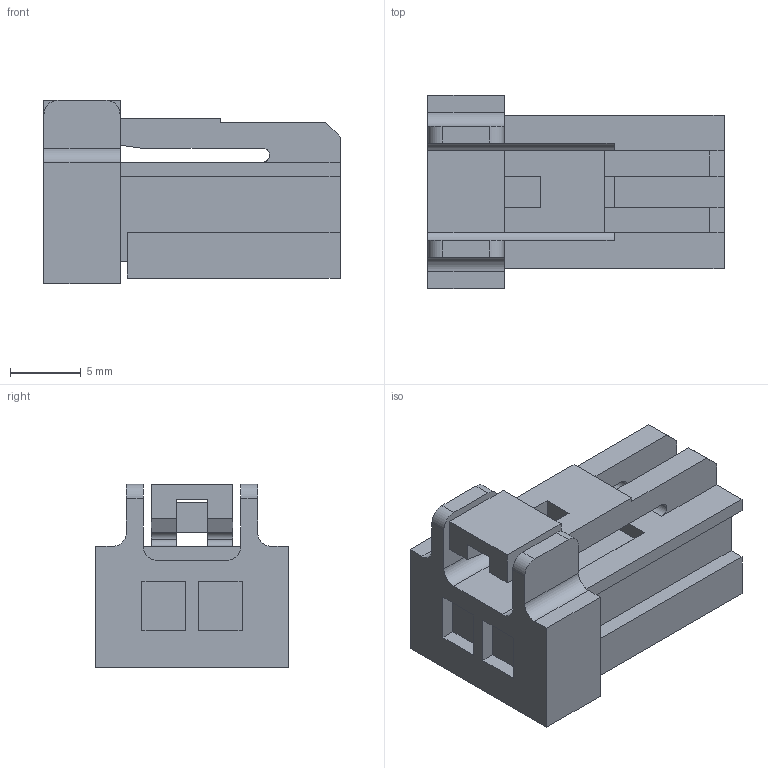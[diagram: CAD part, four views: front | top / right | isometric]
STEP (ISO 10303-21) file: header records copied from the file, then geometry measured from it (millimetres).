
FILE_DESCRIPTION(('CATIA V5 STEP Exchange'),'2;1');
FILE_NAME('N:\C-DAM_MyDesk\ENV\900093\6098-0239.stp','2013-04-03T06:55:06+00:00',('none'),('none'),'CATIA Version 5 Release 20 SP 4 (IN-10)','CATIA V5 STEP AP203','none');
FILE_SCHEMA(('CONFIG_CONTROL_DESIGN'));
Length unit declared in the file: millimetre
Products named in the file (1): 6098-0239
Bounding box: 21 x 13.7 x 13 mm (x, y, z)
Volume: 1819.5 mm3; surface area: 1753.7 mm2
Topology: 1 solids, 1 shells, 94 faces, 272 edges, 180 vertices
Faces by surface type: plane 82, cylinder 12
Entity records: 2975 total; most frequent: CARTESIAN_POINT 578, ORIENTED_EDGE 544, DIRECTION 395, EDGE_CURVE 272, VECTOR 248, LINE 248, VERTEX_POINT 180, EDGE_LOOP 98
